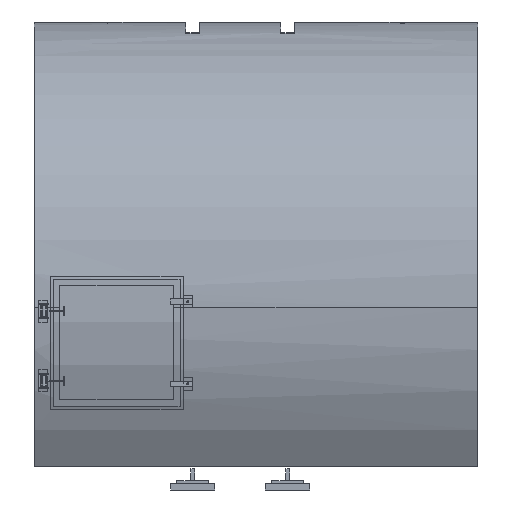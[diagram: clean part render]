
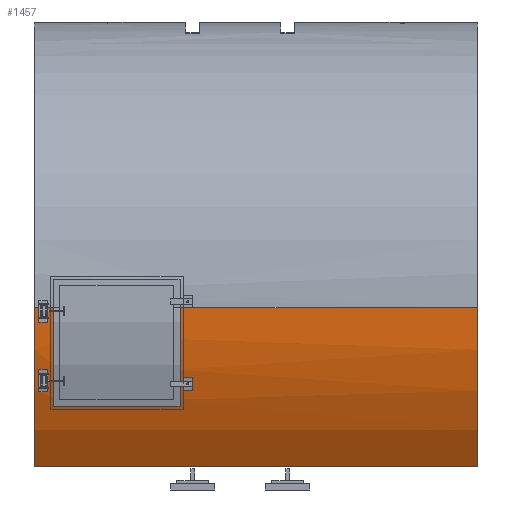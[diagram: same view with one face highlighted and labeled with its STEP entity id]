
A CAD part, front view. The second image highlights one B-rep face of the part: STEP entity #1457.
In plain terms, the highlighted cylindrical face has radius 900 mm (diameter 1800 mm), a partial arc.
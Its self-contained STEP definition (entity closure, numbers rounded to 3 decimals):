
#214 = VERTEX_POINT('',#215);
#215 = CARTESIAN_POINT('',(4400.,-900.,2350.));
#223 = CYLINDRICAL_SURFACE('',#224,900.);
#224 = AXIS2_PLACEMENT_3D('',#225,#226,#227);
#225 = CARTESIAN_POINT('',(3000.,0.,2350.));
#226 = DIRECTION('',(1.,0.,0.));
#227 = DIRECTION('',(0.,0.,1.));
#235 = PLANE('',#236);
#236 = AXIS2_PLACEMENT_3D('',#237,#238,#239);
#237 = CARTESIAN_POINT('',(4400.,0.,2350.));
#238 = DIRECTION('',(1.,0.,0.));
#239 = DIRECTION('',(0.,0.,1.));
#732 = VERTEX_POINT('',#733);
#733 = CARTESIAN_POINT('',(3000.,-900.,2350.));
#748 = PLANE('',#749);
#749 = AXIS2_PLACEMENT_3D('',#750,#751,#752);
#750 = CARTESIAN_POINT('',(3000.,0.,2350.));
#751 = DIRECTION('',(1.,0.,0.));
#752 = DIRECTION('',(0.,0.,1.));
#760 = EDGE_CURVE('',#732,#761,#763,.T.);
#761 = VERTEX_POINT('',#762);
#762 = CARTESIAN_POINT('',(3080.,-900.,2350.));
#763 = SURFACE_CURVE('',#764,(#768,#774),.PCURVE_S1.);
#764 = LINE('',#765,#766);
#765 = CARTESIAN_POINT('',(3000.,-900.,2350.));
#766 = VECTOR('',#767,1.);
#767 = DIRECTION('',(1.,0.,0.));
#768 = PCURVE('',#223,#769);
#769 = DEFINITIONAL_REPRESENTATION('',(#770),#773);
#770 = B_SPLINE_CURVE_WITH_KNOTS('',1,(#771,#772),.UNSPECIFIED.,.F.,.F.,
  (2,2),(0.,1400.),
  .PIECEWISE_BEZIER_KNOTS.);
#771 = CARTESIAN_POINT('',(1.571,0.));
#772 = CARTESIAN_POINT('',(1.571,1400.));
#773 = ( GEOMETRIC_REPRESENTATION_CONTEXT(2) 
PARAMETRIC_REPRESENTATION_CONTEXT() REPRESENTATION_CONTEXT('2D SPACE',''
  ) );
#774 = PCURVE('',#775,#780);
#775 = CYLINDRICAL_SURFACE('',#776,900.);
#776 = AXIS2_PLACEMENT_3D('',#777,#778,#779);
#777 = CARTESIAN_POINT('',(3000.,0.,2350.));
#778 = DIRECTION('',(1.,0.,0.));
#779 = DIRECTION('',(0.,0.,1.));
#780 = DEFINITIONAL_REPRESENTATION('',(#781),#784);
#781 = B_SPLINE_CURVE_WITH_KNOTS('',1,(#782,#783),.UNSPECIFIED.,.F.,.F.,
  (2,2),(0.,1400.),
  .PIECEWISE_BEZIER_KNOTS.);
#782 = CARTESIAN_POINT('',(1.571,0.));
#783 = CARTESIAN_POINT('',(1.571,1400.));
#784 = ( GEOMETRIC_REPRESENTATION_CONTEXT(2) 
PARAMETRIC_REPRESENTATION_CONTEXT() REPRESENTATION_CONTEXT('2D SPACE',''
  ) );
#803 = PLANE('',#804);
#804 = AXIS2_PLACEMENT_3D('',#805,#806,#807);
#805 = CARTESIAN_POINT('',(3080.,-1000.,2060.));
#806 = DIRECTION('',(1.,0.,0.));
#807 = DIRECTION('',(0.,0.,1.));
#842 = VERTEX_POINT('',#843);
#843 = CARTESIAN_POINT('',(3440.,-900.,2350.));
#858 = PLANE('',#859);
#859 = AXIS2_PLACEMENT_3D('',#860,#861,#862);
#860 = CARTESIAN_POINT('',(3440.,-1000.,2060.));
#861 = DIRECTION('',(1.,0.,0.));
#862 = DIRECTION('',(0.,0.,1.));
#870 = EDGE_CURVE('',#842,#214,#871,.T.);
#871 = SURFACE_CURVE('',#872,(#876,#882),.PCURVE_S1.);
#872 = LINE('',#873,#874);
#873 = CARTESIAN_POINT('',(3000.,-900.,2350.));
#874 = VECTOR('',#875,1.);
#875 = DIRECTION('',(1.,0.,0.));
#876 = PCURVE('',#223,#877);
#877 = DEFINITIONAL_REPRESENTATION('',(#878),#881);
#878 = B_SPLINE_CURVE_WITH_KNOTS('',1,(#879,#880),.UNSPECIFIED.,.F.,.F.,
  (2,2),(0.,1400.),
  .PIECEWISE_BEZIER_KNOTS.);
#879 = CARTESIAN_POINT('',(1.571,0.));
#880 = CARTESIAN_POINT('',(1.571,1400.));
#881 = ( GEOMETRIC_REPRESENTATION_CONTEXT(2) 
PARAMETRIC_REPRESENTATION_CONTEXT() REPRESENTATION_CONTEXT('2D SPACE',''
  ) );
#882 = PCURVE('',#775,#883);
#883 = DEFINITIONAL_REPRESENTATION('',(#884),#887);
#884 = B_SPLINE_CURVE_WITH_KNOTS('',1,(#885,#886),.UNSPECIFIED.,.F.,.F.,
  (2,2),(0.,1400.),
  .PIECEWISE_BEZIER_KNOTS.);
#885 = CARTESIAN_POINT('',(1.571,0.));
#886 = CARTESIAN_POINT('',(1.571,1400.));
#887 = ( GEOMETRIC_REPRESENTATION_CONTEXT(2) 
PARAMETRIC_REPRESENTATION_CONTEXT() REPRESENTATION_CONTEXT('2D SPACE',''
  ) );
#1330 = EDGE_CURVE('',#214,#1331,#1333,.T.);
#1331 = VERTEX_POINT('',#1332);
#1332 = CARTESIAN_POINT('',(4400.,-748.331,1850.));
#1333 = SURFACE_CURVE('',#1334,(#1339,#1346),.PCURVE_S1.);
#1334 = CIRCLE('',#1335,900.);
#1335 = AXIS2_PLACEMENT_3D('',#1336,#1337,#1338);
#1336 = CARTESIAN_POINT('',(4400.,0.,2350.));
#1337 = DIRECTION('',(1.,0.,-0.));
#1338 = DIRECTION('',(0.,0.,1.));
#1339 = PCURVE('',#235,#1340);
#1340 = DEFINITIONAL_REPRESENTATION('',(#1341),#1345);
#1341 = CIRCLE('',#1342,900.);
#1342 = AXIS2_PLACEMENT_2D('',#1343,#1344);
#1343 = CARTESIAN_POINT('',(0.,0.));
#1344 = DIRECTION('',(1.,0.));
#1345 = ( GEOMETRIC_REPRESENTATION_CONTEXT(2) 
PARAMETRIC_REPRESENTATION_CONTEXT() REPRESENTATION_CONTEXT('2D SPACE',''
  ) );
#1346 = PCURVE('',#775,#1347);
#1347 = DEFINITIONAL_REPRESENTATION('',(#1348),#1352);
#1348 = LINE('',#1349,#1350);
#1349 = CARTESIAN_POINT('',(0.,1400.));
#1350 = VECTOR('',#1351,1.);
#1351 = DIRECTION('',(1.,0.));
#1352 = ( GEOMETRIC_REPRESENTATION_CONTEXT(2) 
PARAMETRIC_REPRESENTATION_CONTEXT() REPRESENTATION_CONTEXT('2D SPACE',''
  ) );
#1370 = PLANE('',#1371);
#1371 = AXIS2_PLACEMENT_3D('',#1372,#1373,#1374);
#1372 = CARTESIAN_POINT('',(2999.,-900.,1850.));
#1373 = DIRECTION('',(0.,0.,1.));
#1374 = DIRECTION('',(1.,0.,0.));
#1457 = ADVANCED_FACE('',(#1458),#775,.T.);
#1458 = FACE_BOUND('',#1459,.T.);
#1459 = EDGE_LOOP('',(#1460,#1461,#1462,#1486,#1512,#1534,#1535,#1559));
#1460 = ORIENTED_EDGE('',*,*,#1330,.F.);
#1461 = ORIENTED_EDGE('',*,*,#870,.F.);
#1462 = ORIENTED_EDGE('',*,*,#1463,.T.);
#1463 = EDGE_CURVE('',#842,#1464,#1466,.T.);
#1464 = VERTEX_POINT('',#1465);
#1465 = CARTESIAN_POINT('',(3440.,-851.998,2060.));
#1466 = SURFACE_CURVE('',#1467,(#1472,#1479),.PCURVE_S1.);
#1467 = CIRCLE('',#1468,900.);
#1468 = AXIS2_PLACEMENT_3D('',#1469,#1470,#1471);
#1469 = CARTESIAN_POINT('',(3440.,0.,2350.));
#1470 = DIRECTION('',(1.,0.,-0.));
#1471 = DIRECTION('',(0.,0.,1.));
#1472 = PCURVE('',#775,#1473);
#1473 = DEFINITIONAL_REPRESENTATION('',(#1474),#1478);
#1474 = LINE('',#1475,#1476);
#1475 = CARTESIAN_POINT('',(0.,440.));
#1476 = VECTOR('',#1477,1.);
#1477 = DIRECTION('',(1.,0.));
#1478 = ( GEOMETRIC_REPRESENTATION_CONTEXT(2) 
PARAMETRIC_REPRESENTATION_CONTEXT() REPRESENTATION_CONTEXT('2D SPACE',''
  ) );
#1479 = PCURVE('',#858,#1480);
#1480 = DEFINITIONAL_REPRESENTATION('',(#1481),#1485);
#1481 = CIRCLE('',#1482,900.);
#1482 = AXIS2_PLACEMENT_2D('',#1483,#1484);
#1483 = CARTESIAN_POINT('',(290.,-1000.));
#1484 = DIRECTION('',(1.,0.));
#1485 = ( GEOMETRIC_REPRESENTATION_CONTEXT(2) 
PARAMETRIC_REPRESENTATION_CONTEXT() REPRESENTATION_CONTEXT('2D SPACE',''
  ) );
#1486 = ORIENTED_EDGE('',*,*,#1487,.F.);
#1487 = EDGE_CURVE('',#1488,#1464,#1490,.T.);
#1488 = VERTEX_POINT('',#1489);
#1489 = CARTESIAN_POINT('',(3080.,-851.998,2060.));
#1490 = SURFACE_CURVE('',#1491,(#1495,#1501),.PCURVE_S1.);
#1491 = LINE('',#1492,#1493);
#1492 = CARTESIAN_POINT('',(3000.,-851.998,2060.));
#1493 = VECTOR('',#1494,1.);
#1494 = DIRECTION('',(1.,0.,0.));
#1495 = PCURVE('',#775,#1496);
#1496 = DEFINITIONAL_REPRESENTATION('',(#1497),#1500);
#1497 = B_SPLINE_CURVE_WITH_KNOTS('',1,(#1498,#1499),.UNSPECIFIED.,.F.,
  .F.,(2,2),(44.,476.),.PIECEWISE_BEZIER_KNOTS.);
#1498 = CARTESIAN_POINT('',(1.899,44.));
#1499 = CARTESIAN_POINT('',(1.899,476.));
#1500 = ( GEOMETRIC_REPRESENTATION_CONTEXT(2) 
PARAMETRIC_REPRESENTATION_CONTEXT() REPRESENTATION_CONTEXT('2D SPACE',''
  ) );
#1501 = PCURVE('',#1502,#1507);
#1502 = PLANE('',#1503);
#1503 = AXIS2_PLACEMENT_3D('',#1504,#1505,#1506);
#1504 = CARTESIAN_POINT('',(3080.,-1000.,2060.));
#1505 = DIRECTION('',(0.,0.,1.));
#1506 = DIRECTION('',(1.,0.,0.));
#1507 = DEFINITIONAL_REPRESENTATION('',(#1508),#1511);
#1508 = B_SPLINE_CURVE_WITH_KNOTS('',1,(#1509,#1510),.UNSPECIFIED.,.F.,
  .F.,(2,2),(44.,476.),.PIECEWISE_BEZIER_KNOTS.);
#1509 = CARTESIAN_POINT('',(-36.,148.002));
#1510 = CARTESIAN_POINT('',(396.,148.002));
#1511 = ( GEOMETRIC_REPRESENTATION_CONTEXT(2) 
PARAMETRIC_REPRESENTATION_CONTEXT() REPRESENTATION_CONTEXT('2D SPACE',''
  ) );
#1512 = ORIENTED_EDGE('',*,*,#1513,.F.);
#1513 = EDGE_CURVE('',#761,#1488,#1514,.T.);
#1514 = SURFACE_CURVE('',#1515,(#1520,#1527),.PCURVE_S1.);
#1515 = CIRCLE('',#1516,900.);
#1516 = AXIS2_PLACEMENT_3D('',#1517,#1518,#1519);
#1517 = CARTESIAN_POINT('',(3080.,0.,2350.));
#1518 = DIRECTION('',(1.,0.,-0.));
#1519 = DIRECTION('',(0.,0.,1.));
#1520 = PCURVE('',#775,#1521);
#1521 = DEFINITIONAL_REPRESENTATION('',(#1522),#1526);
#1522 = LINE('',#1523,#1524);
#1523 = CARTESIAN_POINT('',(0.,80.));
#1524 = VECTOR('',#1525,1.);
#1525 = DIRECTION('',(1.,0.));
#1526 = ( GEOMETRIC_REPRESENTATION_CONTEXT(2) 
PARAMETRIC_REPRESENTATION_CONTEXT() REPRESENTATION_CONTEXT('2D SPACE',''
  ) );
#1527 = PCURVE('',#803,#1528);
#1528 = DEFINITIONAL_REPRESENTATION('',(#1529),#1533);
#1529 = CIRCLE('',#1530,900.);
#1530 = AXIS2_PLACEMENT_2D('',#1531,#1532);
#1531 = CARTESIAN_POINT('',(290.,-1000.));
#1532 = DIRECTION('',(1.,0.));
#1533 = ( GEOMETRIC_REPRESENTATION_CONTEXT(2) 
PARAMETRIC_REPRESENTATION_CONTEXT() REPRESENTATION_CONTEXT('2D SPACE',''
  ) );
#1534 = ORIENTED_EDGE('',*,*,#760,.F.);
#1535 = ORIENTED_EDGE('',*,*,#1536,.T.);
#1536 = EDGE_CURVE('',#732,#1537,#1539,.T.);
#1537 = VERTEX_POINT('',#1538);
#1538 = CARTESIAN_POINT('',(3000.,-748.331,1850.));
#1539 = SURFACE_CURVE('',#1540,(#1545,#1552),.PCURVE_S1.);
#1540 = CIRCLE('',#1541,900.);
#1541 = AXIS2_PLACEMENT_3D('',#1542,#1543,#1544);
#1542 = CARTESIAN_POINT('',(3000.,0.,2350.));
#1543 = DIRECTION('',(1.,0.,-0.));
#1544 = DIRECTION('',(0.,0.,1.));
#1545 = PCURVE('',#775,#1546);
#1546 = DEFINITIONAL_REPRESENTATION('',(#1547),#1551);
#1547 = LINE('',#1548,#1549);
#1548 = CARTESIAN_POINT('',(0.,0.));
#1549 = VECTOR('',#1550,1.);
#1550 = DIRECTION('',(1.,0.));
#1551 = ( GEOMETRIC_REPRESENTATION_CONTEXT(2) 
PARAMETRIC_REPRESENTATION_CONTEXT() REPRESENTATION_CONTEXT('2D SPACE',''
  ) );
#1552 = PCURVE('',#748,#1553);
#1553 = DEFINITIONAL_REPRESENTATION('',(#1554),#1558);
#1554 = CIRCLE('',#1555,900.);
#1555 = AXIS2_PLACEMENT_2D('',#1556,#1557);
#1556 = CARTESIAN_POINT('',(0.,0.));
#1557 = DIRECTION('',(1.,0.));
#1558 = ( GEOMETRIC_REPRESENTATION_CONTEXT(2) 
PARAMETRIC_REPRESENTATION_CONTEXT() REPRESENTATION_CONTEXT('2D SPACE',''
  ) );
#1559 = ORIENTED_EDGE('',*,*,#1560,.T.);
#1560 = EDGE_CURVE('',#1537,#1331,#1561,.T.);
#1561 = SURFACE_CURVE('',#1562,(#1566,#1572),.PCURVE_S1.);
#1562 = LINE('',#1563,#1564);
#1563 = CARTESIAN_POINT('',(3000.,-748.331,1850.));
#1564 = VECTOR('',#1565,1.);
#1565 = DIRECTION('',(1.,0.,0.));
#1566 = PCURVE('',#775,#1567);
#1567 = DEFINITIONAL_REPRESENTATION('',(#1568),#1571);
#1568 = B_SPLINE_CURVE_WITH_KNOTS('',1,(#1569,#1570),.UNSPECIFIED.,.F.,
  .F.,(2,2),(0.,1400.),
  .PIECEWISE_BEZIER_KNOTS.);
#1569 = CARTESIAN_POINT('',(2.16,0.));
#1570 = CARTESIAN_POINT('',(2.16,1400.));
#1571 = ( GEOMETRIC_REPRESENTATION_CONTEXT(2) 
PARAMETRIC_REPRESENTATION_CONTEXT() REPRESENTATION_CONTEXT('2D SPACE',''
  ) );
#1572 = PCURVE('',#1370,#1573);
#1573 = DEFINITIONAL_REPRESENTATION('',(#1574),#1578);
#1574 = LINE('',#1575,#1576);
#1575 = CARTESIAN_POINT('',(1.,151.669));
#1576 = VECTOR('',#1577,1.);
#1577 = DIRECTION('',(1.,0.));
#1578 = ( GEOMETRIC_REPRESENTATION_CONTEXT(2) 
PARAMETRIC_REPRESENTATION_CONTEXT() REPRESENTATION_CONTEXT('2D SPACE',''
  ) );
